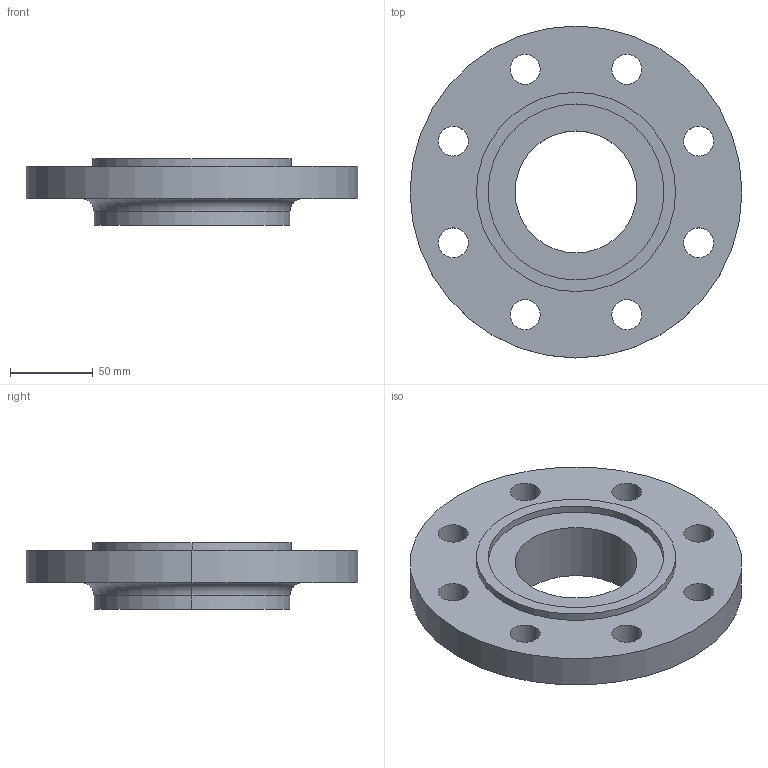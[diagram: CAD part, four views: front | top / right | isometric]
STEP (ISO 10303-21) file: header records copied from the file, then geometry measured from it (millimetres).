
FILE_DESCRIPTION (( 'STEP AP214' ), '1' );
FILE_NAME ('PN40 DN80 Type 13 - Type C Face.STEP', '2019-01-01T19:38:19', ( '' ), ( '' ), 'SwSTEP 2.0', 'SolidWorks 2019', '' );
FILE_SCHEMA (( 'AUTOMOTIVE_DESIGN' ));
Length unit declared in the file: millimetre
Products named in the file (1): PN40 DN80 Type 13 - Type C Face
Bounding box: 200 x 200 x 40 mm (x, y, z)
Volume: 613671.7 mm3; surface area: 87426.8 mm2
Topology: 1 solids, 1 shells, 33 faces, 82 edges, 54 vertices
Faces by surface type: cylinder 26, plane 5, torus 2
Entity records: 1086 total; most frequent: DIRECTION 206, CARTESIAN_POINT 170, ORIENTED_EDGE 164, AXIS2_PLACEMENT_3D 90, EDGE_CURVE 82, CIRCLE 56, VERTEX_POINT 54, EDGE_LOOP 54
